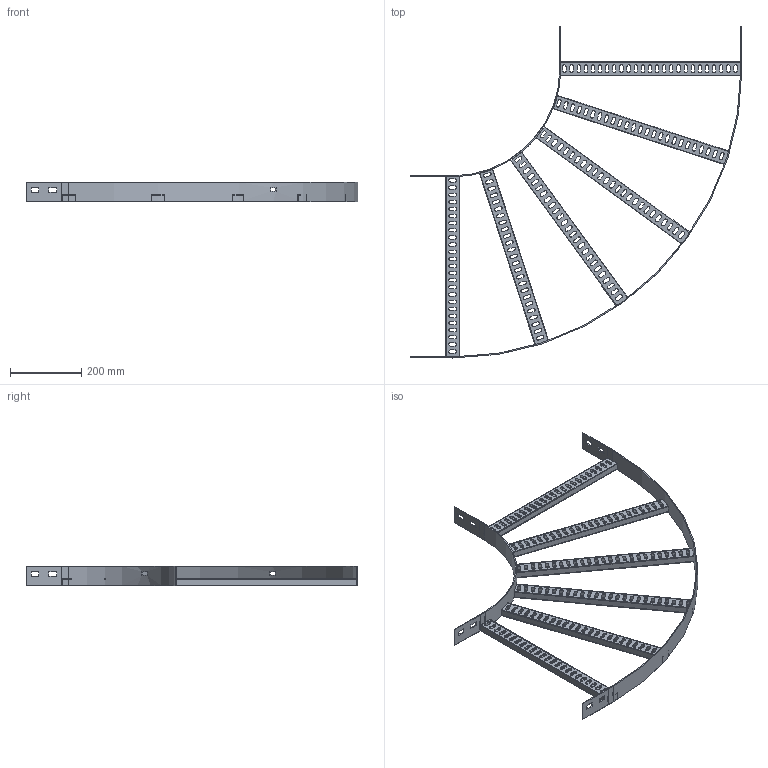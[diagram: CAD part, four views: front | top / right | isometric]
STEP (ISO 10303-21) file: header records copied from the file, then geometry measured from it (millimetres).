
FILE_DESCRIPTION(/* description */ ('','CAx-IF Rec.Pracs.---Representation and Presentation of Product Manufacturing Information (PMI)---4.0---2014-10-13'),/* implementation_level */ '2;1');
FILE_NAME(/* name */ 'Eurostrut_EFB60-500-90-300_Bend 90 for Cable Ladder ECL.step',/* time_stamp */ '2026-09-03T08:40:56+02:00',/* author */ (''),/* organization */ (''),/* preprocessor_version */ 'ST-DEVELOPER v20.1',/* originating_system */ 'Autodesk Revit 2027 27.2.0.39',/* authorisation */ '');
FILE_SCHEMA (('AP242_MANAGED_MODEL_BASED_3D_ENGINEERING_MIM_LF { 1 0 10303 442 2 1 4 }'));
Length unit declared in the file: millimetre
Products named in the file (6): TopLevelAssembly; Sweep; Extrusion; Extrusion_1; Eurostrut_Cable Ladder_Rung_Horizontal Bend_With slots; Eurostrut_Cable Ladder_Accessory End_54-94-142
Assembly tree (8 placements, depth 2):
  TopLevelAssembly
    Sweep
    Extrusion
    Extrusion_1
    Eurostrut_Cable Ladder_Rung_Horizontal Bend_With slots
    Eurostrut_Cable Ladder_Accessory End_54-94-142  x4
Bounding box: 931 x 931 x 54 mm (x, y, z)
Volume: 724336.4 mm3; surface area: 772208.3 mm2
Topology: 16 solids, 16 shells, 808 faces, 2328 edges, 1552 vertices
Faces by surface type: plane 480, bspline 300, cylinder 28
Entity records: 34500 total; most frequent: CARTESIAN_POINT 13780, ORIENTED_EDGE 4440, DIRECTION 3844, EDGE_CURVE 2220, LINE 1556, VECTOR 1556, VERTEX_POINT 1480, AXIS2_PLACEMENT_3D 1144
